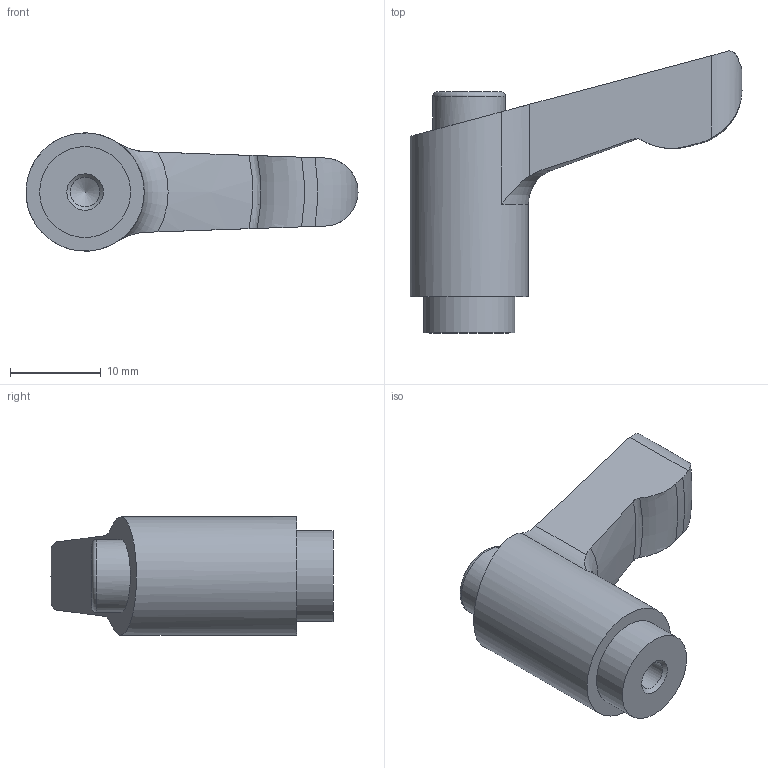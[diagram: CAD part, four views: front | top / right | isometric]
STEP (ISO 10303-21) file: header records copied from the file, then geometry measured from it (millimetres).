
FILE_DESCRIPTION( ( 'STEP AP203' ), '1' );
FILE_NAME( 'C:/Temp/Ganter_Step_05_03_2020/data/2_1/gn303_1/gn303_1_b/Adjustable hand lever GN 303.1-30-M4-SW-O.stp', '2020-03-05T11:21:51', ( 'License CC BY-ND 4.0' ), ( 'CADENAS' ), ' ', 'PARTsolutions', ' ' );
FILE_SCHEMA( ( 'CONFIG_CONTROL_DESIGN' ) );
Length unit declared in the file: millimetre
Products named in the file (1): _Adjustable hand lever GN 303.1-30-M4-SW-O
Bounding box: 36.5 x 31 x 12.99 mm (x, y, z)
Volume: 4462.1 mm3; surface area: 2114.5 mm2
Topology: 1 solids, 1 shells, 24 faces, 59 edges, 39 vertices
Faces by surface type: cylinder 7, plane 6, torus 6, cone 5
Full cylindrical faces by diameter (mm): 3.242 x1, 8 x1, 10 x1, 13 x1
Entity records: 826 total; most frequent: CARTESIAN_POINT 275, DIRECTION 100, ORIENTED_EDGE 98, EDGE_CURVE 49, AXIS2_PLACEMENT_3D 46, VERTEX_POINT 37, EDGE_LOOP 33, FACE_OUTER_BOUND 29
